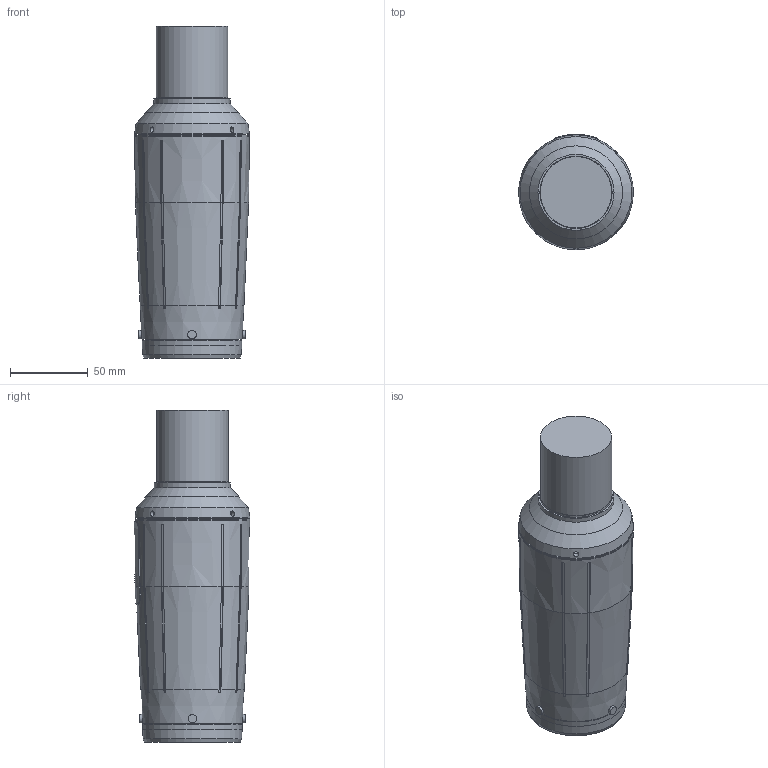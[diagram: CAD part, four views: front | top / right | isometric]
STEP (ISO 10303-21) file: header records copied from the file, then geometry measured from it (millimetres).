
FILE_DESCRIPTION(('FreeCAD Model'),'2;1');
FILE_NAME('Open CASCADE Shape Model','2026-09-19T18:57:27',('FreeCAD'),( 'FreeCAD'),'Open CASCADE STEP processor 7.8','FreeCAD','Unknown');
FILE_SCHEMA(('AUTOMOTIVE_DESIGN { 1 0 10303 214 1 1 1 1 }'));
Length unit declared in the file: millimetre
Products named in the file (1): Open CASCADE STEP translator 7.8 14
Bounding box: 74 x 74.56 x 214 mm (x, y, z)
Volume: 378778.9 mm3; surface area: 190866.2 mm2
Topology: 42 solids, 46 shells, 622 faces, 1522 edges, 1032 vertices
Faces by surface type: plane 368, cylinder 180, cone 62, torus 12
Full cylindrical faces by diameter (mm): 2.2 x8, 2.6 x8, 2.8 x16, 2.9 x4, 3.1 x4, 3.2 x4, 3.4 x28, 4 x12, 4.2 x4, 4.3 x4, 4.4 x4, 4.5 x12, 5 x8, 5.5 x4, 9 x4, 15.875 x1, 16 x1, 17.2 x4, 22 x1, 24 x1, 45.6 x1, 46 x1, 46.6 x1, 49 x1, 50.8 x1, 51.2 x1, 57 x1, 57.7 x1, 61.3 x1, 66.9 x1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
Entity records: 24706 total; most frequent: CARTESIAN_POINT 9344, DIRECTION 3148, ORIENTED_EDGE 3044, EDGE_CURVE 1522, AXIS2_PLACEMENT_3D 1126, VERTEX_POINT 1032, LINE 896, VECTOR 896
